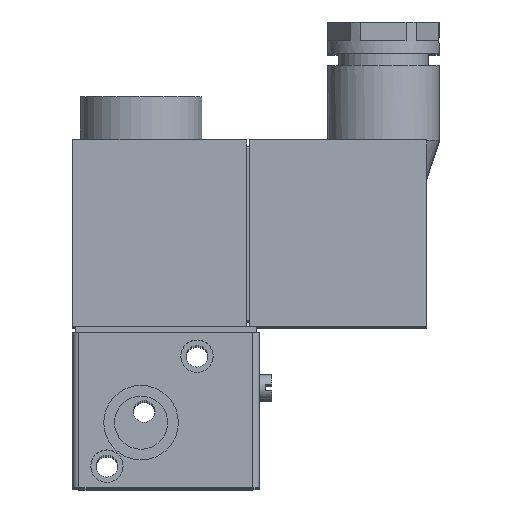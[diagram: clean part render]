
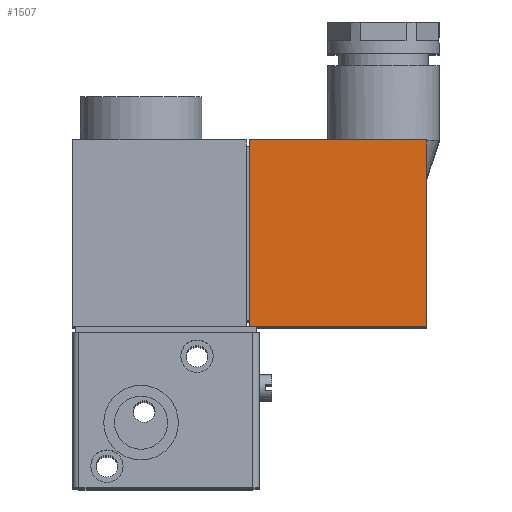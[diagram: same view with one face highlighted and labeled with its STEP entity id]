
A CAD part, top view. The second image highlights one B-rep face of the part: STEP entity #1507.
In plain terms, the highlighted planar face has unit normal (0, 0, 1).
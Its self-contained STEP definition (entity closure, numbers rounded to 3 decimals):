
#211=FACE_OUTER_BOUND('',#324,.T.);
#324=EDGE_LOOP('',(#1266,#1267,#1268,#1269));
#410=LINE('',#2514,#531);
#440=LINE('',#2578,#561);
#442=LINE('',#2584,#563);
#443=LINE('',#2586,#564);
#531=VECTOR('',#2052,1000.);
#561=VECTOR('',#2106,1000.);
#563=VECTOR('',#2114,1000.);
#564=VECTOR('',#2117,1000.);
#740=VERTEX_POINT('',#2511);
#741=VERTEX_POINT('',#2513);
#761=VERTEX_POINT('',#2572);
#763=VERTEX_POINT('',#2576);
#904=EDGE_CURVE('',#740,#741,#410,.T.);
#935=EDGE_CURVE('',#761,#763,#440,.T.);
#939=EDGE_CURVE('',#740,#761,#442,.T.);
#940=EDGE_CURVE('',#741,#763,#443,.T.);
#1266=ORIENTED_EDGE('',*,*,#935,.T.);
#1267=ORIENTED_EDGE('',*,*,#940,.F.);
#1268=ORIENTED_EDGE('',*,*,#904,.F.);
#1269=ORIENTED_EDGE('',*,*,#939,.T.);
#1423=PLANE('',#1722);
#1507=ADVANCED_FACE('',(#211),#1423,.F.);
#1722=AXIS2_PLACEMENT_3D('',#2585,#2115,#2116);
#2052=DIRECTION('',(0.,-1.,0.));
#2106=DIRECTION('',(0.,-1.,0.));
#2114=DIRECTION('',(-1.,0.,0.));
#2115=DIRECTION('center_axis',(0.,0.,-1.));
#2116=DIRECTION('ref_axis',(-1.,0.,0.));
#2117=DIRECTION('',(-1.,0.,0.));
#2511=CARTESIAN_POINT('',(57.,30.,22.));
#2513=CARTESIAN_POINT('',(57.,0.,22.));
#2514=CARTESIAN_POINT('',(57.,30.,22.));
#2572=CARTESIAN_POINT('',(28.5,30.,22.));
#2576=CARTESIAN_POINT('',(28.5,0.,22.));
#2578=CARTESIAN_POINT('',(28.5,30.,22.));
#2584=CARTESIAN_POINT('',(57.,30.,22.));
#2585=CARTESIAN_POINT('Origin',(57.,30.,22.));
#2586=CARTESIAN_POINT('',(57.,0.,22.));
